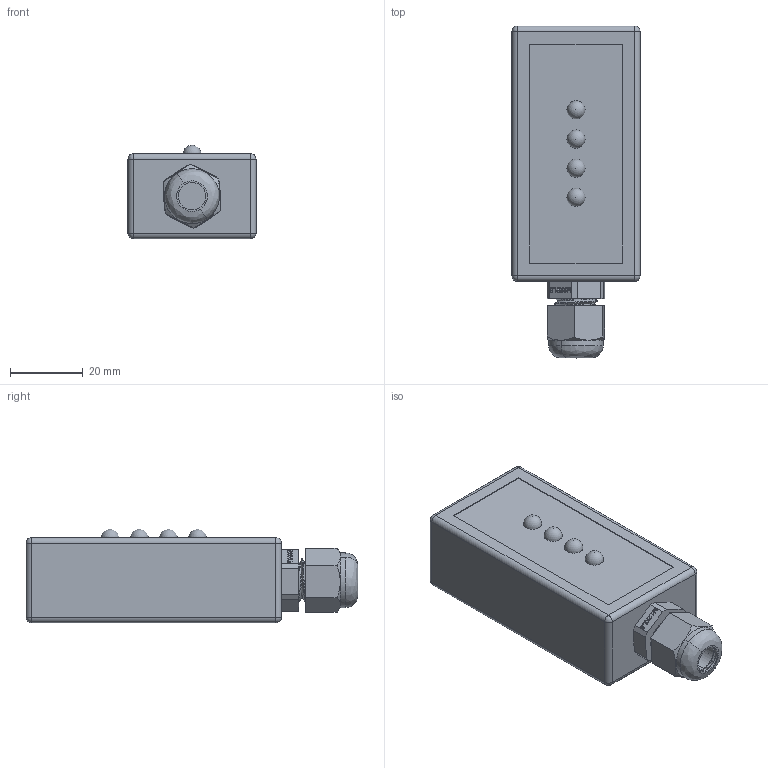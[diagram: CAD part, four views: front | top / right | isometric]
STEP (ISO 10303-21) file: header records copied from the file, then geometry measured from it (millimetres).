
FILE_DESCRIPTION (( 'STEP AP203' ), '1' );
FILE_NAME ('4ledli kutu step dolu.STEP', '2023-07-31T08:01:28', ( '' ), ( '' ), 'SwSTEP 2.0', 'SolidWorks 2023', '' );
FILE_SCHEMA (( 'CONFIG_CONTROL_DESIGN' ));
Length unit declared in the file: millimetre
Products named in the file (1): 4ledli kutu step dolu
Bounding box: 35.1 x 91 x 25.6 mm (x, y, z)
Volume: 59006.3 mm3; surface area: 12824.9 mm2
Topology: 1 solids, 1 shells, 313 faces, 844 edges, 536 vertices
Faces by surface type: plane 178, cylinder 76, bspline 42, sphere 12, cone 5
Entity records: 14815 total; most frequent: CARTESIAN_POINT 7513, ORIENTED_EDGE 1656, DIRECTION 1260, EDGE_CURVE 828, VERTEX_POINT 532, LINE 482, VECTOR 482, AXIS2_PLACEMENT_3D 389
